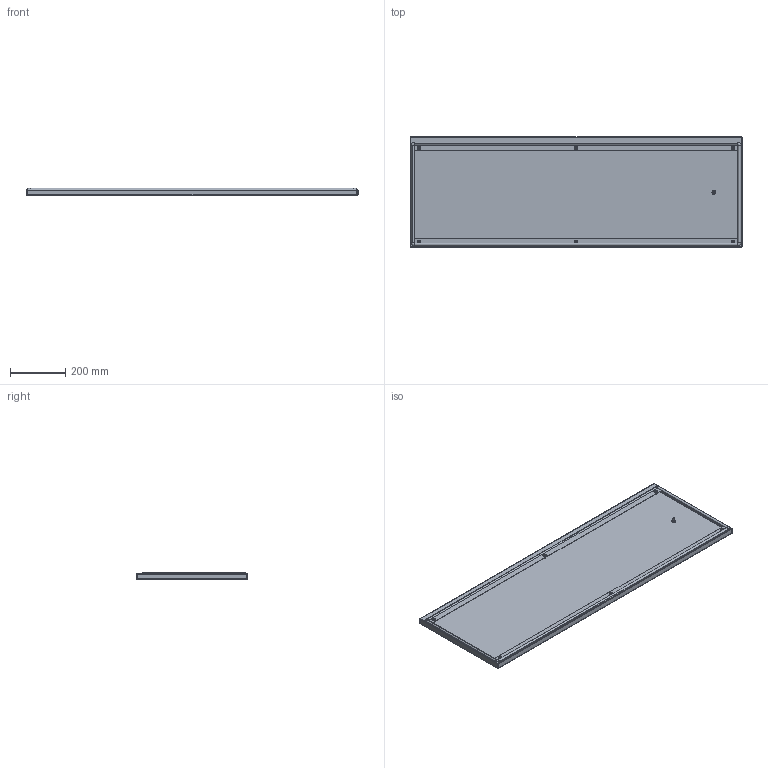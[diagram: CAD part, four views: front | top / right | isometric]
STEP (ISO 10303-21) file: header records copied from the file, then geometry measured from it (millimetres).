
FILE_DESCRIPTION (( 'STEP AP203' ), '1' );
FILE_NAME ('R 120.40 C Ïàíåëü êîíöåâàÿ íèæíåé ÷àñòè.STEP', '2013-01-14T08:30:28', ( 'Àëåêñàíäð' ), ( 'Ïðîâåíòî' ), 'SwSTEP 2.0', 'SolidWorks 2012', '' );
FILE_SCHEMA (( 'CONFIG_CONTROL_DESIGN' ));
Length unit declared in the file: millimetre
Products named in the file (1): R 120.40 C Ïàíåëü êîíöåâàÿ íèæíåé ÷àñòè
Bounding box: 1200 x 400 x 27 mm (x, y, z)
Volume: 1050261.5 mm3; surface area: 1317593.2 mm2
Topology: 3 solids, 3 shells, 197 faces, 432 edges, 264 vertices
Faces by surface type: cylinder 84, plane 53, torus 34, cone 18, sphere 8
Entity records: 5591 total; most frequent: DIRECTION 1088, CARTESIAN_POINT 958, ORIENTED_EDGE 848, AXIS2_PLACEMENT_3D 470, EDGE_CURVE 424, CIRCLE 272, VERTEX_POINT 264, EDGE_LOOP 244
